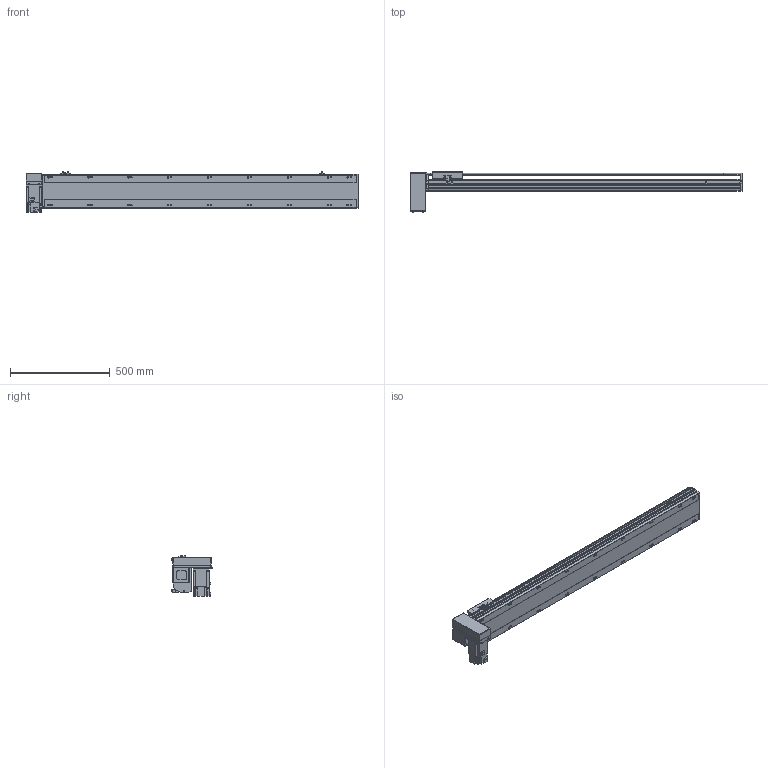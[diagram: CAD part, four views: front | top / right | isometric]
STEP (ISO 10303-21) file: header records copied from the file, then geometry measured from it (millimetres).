
FILE_DESCRIPTION(/* description */ ('STEP AP214'),/* implementation_level */ '2;1');
FILE_NAME(/* name */ 'PBS170-P40-S1300-RD-T75-C1-N(0)',/* time_stamp */ '2022-06-08T07:35:56+02:00',/* author */ ('License CC BY-ND 4.0'),/* organization */ ('CADENAS'),/* preprocessor_version */ 'ST-DEVELOPER v18.102',/* originating_system */ 'PARTsolutions',/* authorisation */ ' ');
FILE_SCHEMA (('AUTOMOTIVE_DESIGN {1 0 10303 214 3 1 1}'));
Length unit declared in the file: millimetre
Products named in the file (7): PBS170-P40-S1300-RD-T75-C1-N(0); PBS170_sensor; PBS170_plant; PBS170_sliser; T75-p1; PBS170T-RD_motors; PBS170-S1300()_body
Assembly tree (8 placements, depth 2):
  PBS170-P40-S1300-RD-T75-C1-N(0)
    PBS170_sensor  x3
    PBS170_plant
    PBS170_sliser
    T75-p1
    PBS170T-RD_motors
    PBS170-S1300()_body
Bounding box: 1663 x 201 x 205.3 mm (x, y, z)
Volume: 13126932.8 mm3; surface area: 1698494 mm2
Topology: 8 solids, 8 shells, 1098 faces, 2915 edges, 1900 vertices
Faces by surface type: plane 693, cylinder 347, cone 48, sphere 8, torus 2
Full cylindrical faces by diameter (mm): 3.242 x4, 4 x2, 4.4 x4, 4.5 x6, 4.917 x4, 6 x9, 6.647 x26, 7 x2, 7.5 x4, 8 x8, 8.5 x18, 10 x4, 10.5 x18, 11 x2, 30 x2, 40 x1, 70 x1
Entity records: 31576 total; most frequent: CARTESIAN_POINT 5825, DIRECTION 5370, ORIENTED_EDGE 5088, EDGE_CURVE 2544, AXIS2_PLACEMENT_3D 1867, VERTEX_POINT 1754, LINE 1636, VECTOR 1636
